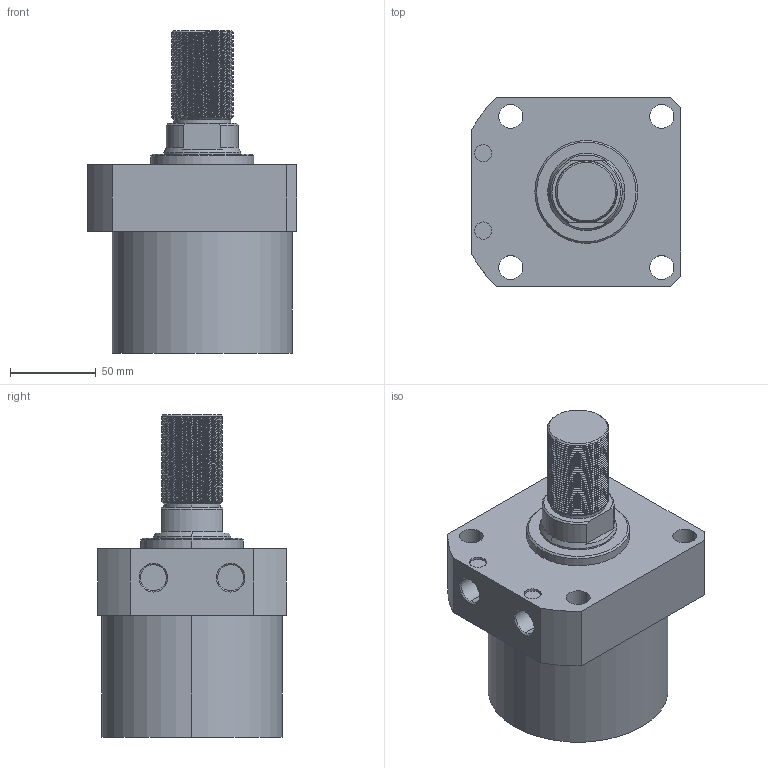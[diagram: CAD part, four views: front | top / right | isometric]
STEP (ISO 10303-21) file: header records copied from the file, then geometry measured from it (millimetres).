
FILE_DESCRIPTION (( 'STEP AP214' ), '1' );
FILE_NAME ('CLLR-105CT-050.STEP', '2020-01-09T07:55:43', ( 'Windows' ), ( 'Microsoft' ), 'SwSTEP 2.0', 'SolidWorks 2015', '' );
FILE_SCHEMA (( 'AUTOMOTIVE_DESIGN' ));
Length unit declared in the file: millimetre
Products named in the file (1): CLLR-105CT-050
Bounding box: 122 x 110 x 188 mm (x, y, z)
Volume: 1187783.9 mm3; surface area: 87598 mm2
Topology: 1 solids, 1 shells, 136 faces, 365 edges, 239 vertices
Faces by surface type: cylinder 97, plane 21, cone 16, bspline 2
Entity records: 8131 total; most frequent: CARTESIAN_POINT 5043, ORIENTED_EDGE 730, DIRECTION 562, EDGE_CURVE 365, VERTEX_POINT 239, AXIS2_PLACEMENT_3D 212, EDGE_LOOP 152, LINE 138
